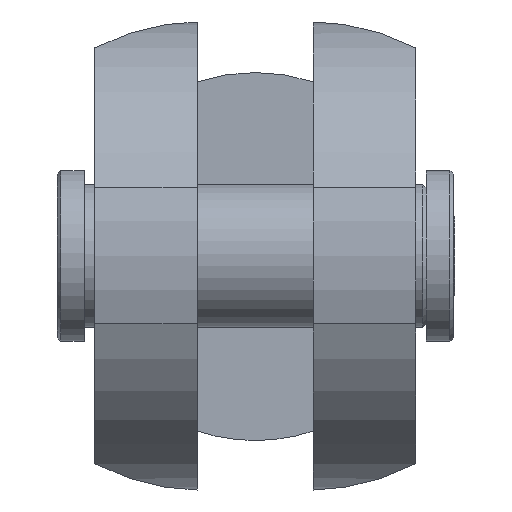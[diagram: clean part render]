
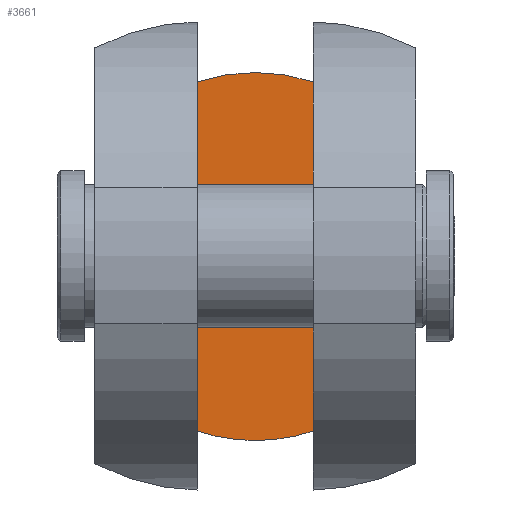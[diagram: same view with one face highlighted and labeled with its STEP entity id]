
A CAD part, top view. The second image highlights one B-rep face of the part: STEP entity #3661.
In plain terms, the highlighted planar face has unit normal (0, 0, 1).
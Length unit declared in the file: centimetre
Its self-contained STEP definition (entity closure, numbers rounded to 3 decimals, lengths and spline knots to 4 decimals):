
#447=LINE('',#6050,#803);
#448=LINE('',#6052,#804);
#803=VECTOR('',#4613,10.22);
#804=VECTOR('',#4616,10.22);
#955=PLANE('',#3871);
#1188=FACE_OUTER_BOUND('',#1416,.T.);
#1416=EDGE_LOOP('',(#3179,#3180,#3181,#3182));
#1485=CIRCLE('',#3726,5.3854);
#1486=CIRCLE('',#3727,5.3854);
#1551=VERTEX_POINT('',#4929);
#1552=VERTEX_POINT('',#4933);
#1557=VERTEX_POINT('',#4965);
#1558=VERTEX_POINT('',#4969);
#1884=EDGE_CURVE('',#1551,#1552,#1485,.T.);
#1890=EDGE_CURVE('',#1557,#1558,#1486,.T.);
#2285=EDGE_CURVE('',#1558,#1551,#447,.T.);
#2286=EDGE_CURVE('',#1557,#1552,#448,.T.);
#3179=ORIENTED_EDGE('',*,*,#1890,.F.);
#3180=ORIENTED_EDGE('',*,*,#2286,.T.);
#3181=ORIENTED_EDGE('',*,*,#1884,.F.);
#3182=ORIENTED_EDGE('',*,*,#2285,.F.);
#3661=ADVANCED_FACE('',(#1188),#955,.F.);
#3726=AXIS2_PLACEMENT_3D('',#4934,#3989,#3990);
#3727=AXIS2_PLACEMENT_3D('',#4970,#3991,#3992);
#3871=AXIS2_PLACEMENT_3D('',#6051,#4614,#4615);
#3989=DIRECTION('center_axis',(0.,0.,
-1.));
#3990=DIRECTION('ref_axis',(0.,-1.,0.));
#3991=DIRECTION('center_axis',(0.,0.,
-1.));
#3992=DIRECTION('ref_axis',(0.,-1.,0.));
#4613=DIRECTION('',(0.,1.,0.));
#4614=DIRECTION('center_axis',(0.,0.,
-1.));
#4615=DIRECTION('ref_axis',(-1.,0.,0.));
#4616=DIRECTION('',(0.,1.,0.));
#4929=CARTESIAN_POINT('',(-1.7,5.11,-8.6));
#4933=CARTESIAN_POINT('',(1.7,5.11,-8.6));
#4934=CARTESIAN_POINT('Origin',(0.,0.,
-8.6));
#4965=CARTESIAN_POINT('',(1.7,-5.11,-8.6));
#4969=CARTESIAN_POINT('',(-1.7,-5.11,-8.6));
#4970=CARTESIAN_POINT('Origin',(0.,0.,
-8.6));
#6050=CARTESIAN_POINT('',(-1.7,0.,-8.6));
#6051=CARTESIAN_POINT('Origin',(1.7,0.,-8.6));
#6052=CARTESIAN_POINT('',(1.7,0.,-8.6));
